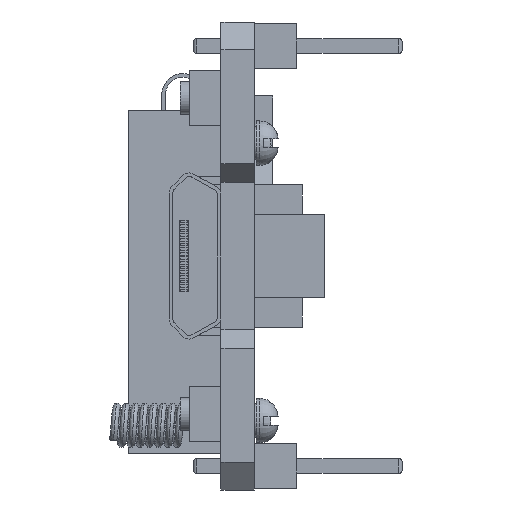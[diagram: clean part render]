
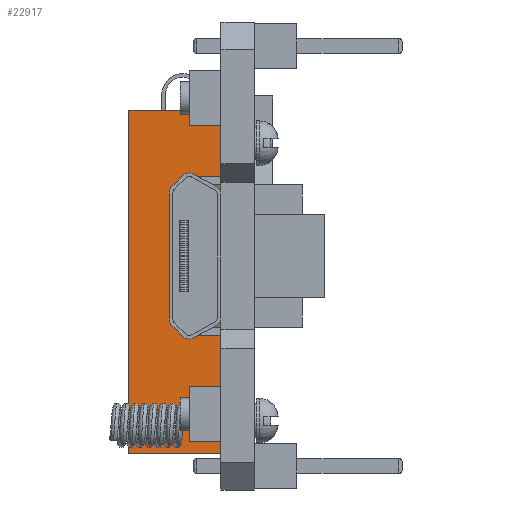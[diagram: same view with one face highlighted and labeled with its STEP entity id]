
A CAD part, left-side view. The second image highlights one B-rep face of the part: STEP entity #22917.
In plain terms, the highlighted planar face has unit normal (-1, 0, 0).
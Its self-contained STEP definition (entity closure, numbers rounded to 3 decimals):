
#1409 = LINE ( 'NONE', #46987, #22905 ) ;
#4069 = ORIENTED_EDGE ( 'NONE', *, *, #13870, .T. ) ;
#6301 = DIRECTION ( 'NONE',  ( 0., 0., -1. ) ) ;
#6436 = VECTOR ( 'NONE', #43298, 1000. ) ;
#6976 = VECTOR ( 'NONE', #27739, 1000. ) ;
#7011 = VERTEX_POINT ( 'NONE', #17913 ) ;
#7363 = CARTESIAN_POINT ( 'NONE',  ( -11.625, 6.8, -10.65 ) ) ;
#7751 = VERTEX_POINT ( 'NONE', #15979 ) ;
#8518 = ORIENTED_EDGE ( 'NONE', *, *, #48293, .F. ) ;
#10018 = CARTESIAN_POINT ( 'NONE',  ( -11.625, 3.3, -10.65 ) ) ;
#13367 = CARTESIAN_POINT ( 'NONE',  ( -11.625, 1.8, -10.65 ) ) ;
#13512 = CARTESIAN_POINT ( 'NONE',  ( -11.625, 6.8, 7.85 ) ) ;
#13737 = FACE_OUTER_BOUND ( 'NONE', #25914, .T. ) ;
#13870 = EDGE_CURVE ( 'NONE', #7011, #15672, #39867, .T. ) ;
#14061 = LINE ( 'NONE', #7363, #48149 ) ;
#15672 = VERTEX_POINT ( 'NONE', #26072 ) ;
#15979 = CARTESIAN_POINT ( 'NONE',  ( -11.625, 6.8, -10.65 ) ) ;
#17483 = DIRECTION ( 'NONE',  ( 0., -1., 0. ) ) ;
#17913 = CARTESIAN_POINT ( 'NONE',  ( -11.625, 1.8, -10.65 ) ) ;
#20995 = CARTESIAN_POINT ( 'NONE',  ( -11.625, 3.3, 7.85 ) ) ;
#22468 = DIRECTION ( 'NONE',  ( 0., 0., 1. ) ) ;
#22905 = VECTOR ( 'NONE', #17483, 1000. ) ;
#22917 = ADVANCED_FACE ( 'NONE', ( #13737 ), #48405, .F. ) ;
#25914 = EDGE_LOOP ( 'NONE', ( #4069, #28467, #8518, #40136 ) ) ;
#26072 = CARTESIAN_POINT ( 'NONE',  ( -11.625, 1.8, 7.85 ) ) ;
#27739 = DIRECTION ( 'NONE',  ( 0., 0., 1. ) ) ;
#28467 = ORIENTED_EDGE ( 'NONE', *, *, #37161, .F. ) ;
#28824 = DIRECTION ( 'NONE',  ( 1., 0., 0. ) ) ;
#32930 = EDGE_CURVE ( 'NONE', #7751, #7011, #1409, .T. ) ;
#36491 = VERTEX_POINT ( 'NONE', #13512 ) ;
#37161 = EDGE_CURVE ( 'NONE', #36491, #15672, #40070, .T. ) ;
#39867 = LINE ( 'NONE', #13367, #6976 ) ;
#40070 = LINE ( 'NONE', #20995, #6436 ) ;
#40136 = ORIENTED_EDGE ( 'NONE', *, *, #32930, .T. ) ;
#42485 = AXIS2_PLACEMENT_3D ( 'NONE', #10018, #28824, #6301 ) ;
#43298 = DIRECTION ( 'NONE',  ( 0., -1., 0. ) ) ;
#46987 = CARTESIAN_POINT ( 'NONE',  ( -11.625, 3.3, -10.65 ) ) ;
#48149 = VECTOR ( 'NONE', #22468, 1000. ) ;
#48293 = EDGE_CURVE ( 'NONE', #7751, #36491, #14061, .T. ) ;
#48405 = PLANE ( 'NONE',  #42485 ) ;
